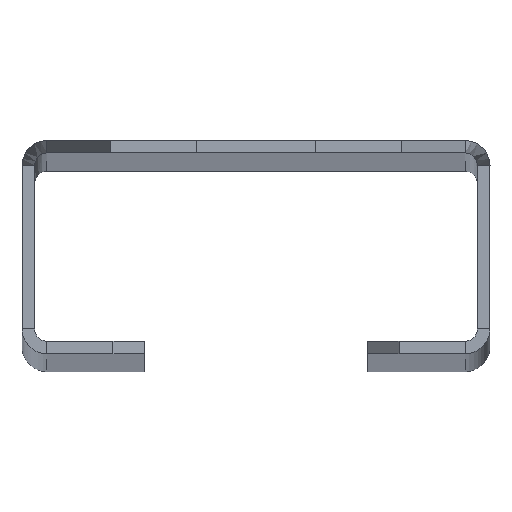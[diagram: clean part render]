
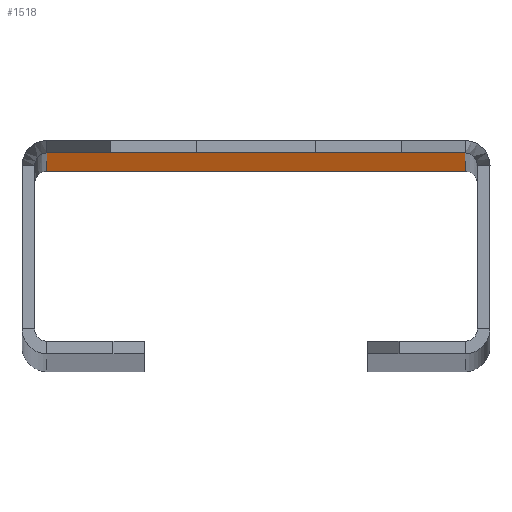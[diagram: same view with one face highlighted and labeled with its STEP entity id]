
A CAD part, top view. The second image highlights one B-rep face of the part: STEP entity #1518.
In plain terms, the highlighted planar face has unit normal (0, -1, 0).
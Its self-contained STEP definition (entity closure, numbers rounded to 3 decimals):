
#5 = EDGE_LOOP ( 'NONE', ( #1352, #1631 ) ) ;
#20 = CARTESIAN_POINT ( 'NONE',  ( 17.95, -1.2, -501. ) ) ;
#22 = CARTESIAN_POINT ( 'NONE',  ( 12.2, -1.2, -483.5 ) ) ;
#24 = DIRECTION ( 'NONE',  ( 0., 1., 0. ) ) ;
#35 = EDGE_CURVE ( 'NONE', #931, #1647, #1621, .T. ) ;
#42 = CARTESIAN_POINT ( 'NONE',  ( 6.45, -1.2, 501. ) ) ;
#44 = VECTOR ( 'NONE', #730, 1000. ) ;
#45 = VERTEX_POINT ( 'NONE', #602 ) ;
#64 = DIRECTION ( 'NONE',  ( 0., 1., 0. ) ) ;
#73 = VECTOR ( 'NONE', #985, 1000. ) ;
#74 = LINE ( 'NONE', #744, #180 ) ;
#75 = CARTESIAN_POINT ( 'NONE',  ( 6.45, -1.2, 507.5 ) ) ;
#91 = EDGE_CURVE ( 'NONE', #769, #931, #1379, .T. ) ;
#110 = PLANE ( 'NONE',  #499 ) ;
#125 = ORIENTED_EDGE ( 'NONE', *, *, #1415, .T. ) ;
#128 = CARTESIAN_POINT ( 'NONE',  ( 32.3, -1.2, 499.781 ) ) ;
#139 = ORIENTED_EDGE ( 'NONE', *, *, #1483, .T. ) ;
#149 = CARTESIAN_POINT ( 'NONE',  ( 6.45, -1.2, 501. ) ) ;
#176 = CARTESIAN_POINT ( 'NONE',  ( 6.45, -1.2, 507.5 ) ) ;
#180 = VECTOR ( 'NONE', #496, 1000. ) ;
#207 = CIRCLE ( 'NONE', #1063, 3.25 ) ;
#212 = EDGE_CURVE ( 'NONE', #45, #769, #1179, .T. ) ;
#234 = CARTESIAN_POINT ( 'NONE',  ( 12.2, -1.2, -480.25 ) ) ;
#237 = ORIENTED_EDGE ( 'NONE', *, *, #910, .T. ) ;
#240 = VECTOR ( 'NONE', #675, 1000. ) ;
#277 = CIRCLE ( 'NONE', #1231, 3.25 ) ;
#285 = CARTESIAN_POINT ( 'NONE',  ( 26.145, -1.2, -510.25 ) ) ;
#293 = LINE ( 'NONE', #1693, #885 ) ;
#306 = VERTEX_POINT ( 'NONE', #285 ) ;
#312 = EDGE_LOOP ( 'NONE', ( #1371, #1258, #945, #237, #1019, #898, #1562, #1034 ) ) ;
#316 = DIRECTION ( 'NONE',  ( 1., 0., 0. ) ) ;
#319 = VECTOR ( 'NONE', #387, 1000. ) ;
#320 = LINE ( 'NONE', #879, #1598 ) ;
#321 = CARTESIAN_POINT ( 'NONE',  ( 17.95, -1.2, 507.5 ) ) ;
#324 = VERTEX_POINT ( 'NONE', #1597 ) ;
#335 = CARTESIAN_POINT ( 'NONE',  ( 32.3, -1.2, -499.781 ) ) ;
#367 = CARTESIAN_POINT ( 'NONE',  ( 0., -1.2, 0. ) ) ;
#373 = VERTEX_POINT ( 'NONE', #1068 ) ;
#378 = CARTESIAN_POINT ( 'NONE',  ( -7.9, -1.2, -499.781 ) ) ;
#386 = DIRECTION ( 'NONE',  ( 0., -1., 0. ) ) ;
#387 = DIRECTION ( 'NONE',  ( -0.507, 0., -0.862 ) ) ;
#388 = VERTEX_POINT ( 'NONE', #22 ) ;
#397 = EDGE_CURVE ( 'NONE', #974, #373, #293, .T. ) ;
#415 = DIRECTION ( 'NONE',  ( 0., -1., 0. ) ) ;
#451 = LINE ( 'NONE', #1222, #464 ) ;
#464 = VECTOR ( 'NONE', #316, 1000. ) ;
#468 = CARTESIAN_POINT ( 'NONE',  ( -1.745, -1.2, 510.25 ) ) ;
#481 = DIRECTION ( 'NONE',  ( 0., 0., -1. ) ) ;
#496 = DIRECTION ( 'NONE',  ( 0., 0., -1. ) ) ;
#499 = AXIS2_PLACEMENT_3D ( 'NONE', #367, #386, #481 ) ;
#502 = CARTESIAN_POINT ( 'NONE',  ( 17.95, -1.2, -507.5 ) ) ;
#530 = CARTESIAN_POINT ( 'NONE',  ( 6.45, -1.2, -504.25 ) ) ;
#535 = CARTESIAN_POINT ( 'NONE',  ( -7.9, -1.2, 499.781 ) ) ;
#546 = CARTESIAN_POINT ( 'NONE',  ( 17.95, -1.2, -504.25 ) ) ;
#567 = CARTESIAN_POINT ( 'NONE',  ( 26.145, -1.2, 510.25 ) ) ;
#594 = CIRCLE ( 'NONE', #624, 3.25 ) ;
#602 = CARTESIAN_POINT ( 'NONE',  ( 6.45, -1.2, -507.5 ) ) ;
#605 = CARTESIAN_POINT ( 'NONE',  ( 6.45, -1.2, 504.25 ) ) ;
#615 = EDGE_CURVE ( 'NONE', #720, #324, #74, .T. ) ;
#617 = EDGE_CURVE ( 'NONE', #1398, #1447, #594, .T. ) ;
#624 = AXIS2_PLACEMENT_3D ( 'NONE', #605, #64, #1660 ) ;
#664 = ORIENTED_EDGE ( 'NONE', *, *, #91, .T. ) ;
#675 = DIRECTION ( 'NONE',  ( 0.507, 0., -0.862 ) ) ;
#687 = DIRECTION ( 'NONE',  ( -1., 0., 0. ) ) ;
#692 = EDGE_CURVE ( 'NONE', #388, #1469, #207, .T. ) ;
#696 = EDGE_LOOP ( 'NONE', ( #1376, #664, #886, #125 ) ) ;
#720 = VERTEX_POINT ( 'NONE', #1025 ) ;
#730 = DIRECTION ( 'NONE',  ( 1., 0., 0. ) ) ;
#739 = ORIENTED_EDGE ( 'NONE', *, *, #617, .T. ) ;
#744 = CARTESIAN_POINT ( 'NONE',  ( 32.3, -1.2, 499.781 ) ) ;
#769 = VERTEX_POINT ( 'NONE', #1256 ) ;
#771 = ORIENTED_EDGE ( 'NONE', *, *, #1380, .T. ) ;
#777 = FACE_BOUND ( 'NONE', #696, .T. ) ;
#778 = LINE ( 'NONE', #535, #319 ) ;
#796 = AXIS2_PLACEMENT_3D ( 'NONE', #546, #24, #823 ) ;
#801 = CARTESIAN_POINT ( 'NONE',  ( 17.95, -1.2, 501. ) ) ;
#823 = DIRECTION ( 'NONE',  ( 0., 0., 1. ) ) ;
#879 = CARTESIAN_POINT ( 'NONE',  ( 6.45, -1.2, -507.5 ) ) ;
#882 = DIRECTION ( 'NONE',  ( -0.507, 0., 0.862 ) ) ;
#885 = VECTOR ( 'NONE', #1254, 1000. ) ;
#886 = ORIENTED_EDGE ( 'NONE', *, *, #35, .T. ) ;
#888 = EDGE_LOOP ( 'NONE', ( #739, #1322, #139, #771 ) ) ;
#891 = EDGE_CURVE ( 'NONE', #1435, #373, #778, .T. ) ;
#898 = ORIENTED_EDGE ( 'NONE', *, *, #1186, .T. ) ;
#906 = DIRECTION ( 'NONE',  ( 0., 1., 0. ) ) ;
#910 = EDGE_CURVE ( 'NONE', #974, #1112, #1558, .T. ) ;
#912 = DIRECTION ( 'NONE',  ( -1., 0., 0. ) ) ;
#926 = CARTESIAN_POINT ( 'NONE',  ( 12.2, -1.2, -480.25 ) ) ;
#931 = VERTEX_POINT ( 'NONE', #20 ) ;
#934 = VERTEX_POINT ( 'NONE', #321 ) ;
#945 = ORIENTED_EDGE ( 'NONE', *, *, #397, .F. ) ;
#954 = DIRECTION ( 'NONE',  ( 0., 0., -1. ) ) ;
#956 = EDGE_CURVE ( 'NONE', #1447, #934, #958, .T. ) ;
#958 = LINE ( 'NONE', #176, #1197 ) ;
#968 = DIRECTION ( 'NONE',  ( 1., 0., 0. ) ) ;
#974 = VERTEX_POINT ( 'NONE', #1359 ) ;
#981 = VERTEX_POINT ( 'NONE', #567 ) ;
#985 = DIRECTION ( 'NONE',  ( 0.507, 0., 0.862 ) ) ;
#987 = DIRECTION ( 'NONE',  ( 0., 0., -1. ) ) ;
#991 = DIRECTION ( 'NONE',  ( 0., 1., 0. ) ) ;
#1019 = ORIENTED_EDGE ( 'NONE', *, *, #1573, .F. ) ;
#1025 = CARTESIAN_POINT ( 'NONE',  ( 32.3, -1.2, 499.781 ) ) ;
#1034 = ORIENTED_EDGE ( 'NONE', *, *, #1624, .T. ) ;
#1049 = EDGE_CURVE ( 'NONE', #1435, #981, #451, .T. ) ;
#1063 = AXIS2_PLACEMENT_3D ( 'NONE', #234, #1277, #987 ) ;
#1068 = CARTESIAN_POINT ( 'NONE',  ( -7.9, -1.2, 499.781 ) ) ;
#1107 = CARTESIAN_POINT ( 'NONE',  ( 6.45, -1.2, -501. ) ) ;
#1112 = VERTEX_POINT ( 'NONE', #1653 ) ;
#1120 = CIRCLE ( 'NONE', #1652, 3.25 ) ;
#1134 = CARTESIAN_POINT ( 'NONE',  ( 12.2, -1.2, -477. ) ) ;
#1150 = VECTOR ( 'NONE', #687, 1000. ) ;
#1151 = AXIS2_PLACEMENT_3D ( 'NONE', #530, #906, #1441 ) ;
#1158 = FACE_OUTER_BOUND ( 'NONE', #312, .T. ) ;
#1179 = CIRCLE ( 'NONE', #1151, 3.25 ) ;
#1186 = EDGE_CURVE ( 'NONE', #306, #324, #1681, .T. ) ;
#1197 = VECTOR ( 'NONE', #968, 1000. ) ;
#1222 = CARTESIAN_POINT ( 'NONE',  ( -7.9, -1.2, 510.25 ) ) ;
#1231 = AXIS2_PLACEMENT_3D ( 'NONE', #926, #415, #954 ) ;
#1238 = DIRECTION ( 'NONE',  ( 0., 0., 1. ) ) ;
#1241 = VERTEX_POINT ( 'NONE', #801 ) ;
#1254 = DIRECTION ( 'NONE',  ( 0., 0., 1. ) ) ;
#1256 = CARTESIAN_POINT ( 'NONE',  ( 6.45, -1.2, -501. ) ) ;
#1258 = ORIENTED_EDGE ( 'NONE', *, *, #891, .T. ) ;
#1271 = DIRECTION ( 'NONE',  ( -1., 0., 0. ) ) ;
#1277 = DIRECTION ( 'NONE',  ( 0., -1., 0. ) ) ;
#1285 = CARTESIAN_POINT ( 'NONE',  ( -7.9, -1.2, -510.25 ) ) ;
#1302 = LINE ( 'NONE', #128, #1317 ) ;
#1317 = VECTOR ( 'NONE', #882, 1000. ) ;
#1322 = ORIENTED_EDGE ( 'NONE', *, *, #956, .T. ) ;
#1352 = ORIENTED_EDGE ( 'NONE', *, *, #1716, .F. ) ;
#1359 = CARTESIAN_POINT ( 'NONE',  ( -7.9, -1.2, -499.781 ) ) ;
#1371 = ORIENTED_EDGE ( 'NONE', *, *, #1049, .F. ) ;
#1376 = ORIENTED_EDGE ( 'NONE', *, *, #212, .T. ) ;
#1379 = LINE ( 'NONE', #1107, #44 ) ;
#1380 = EDGE_CURVE ( 'NONE', #1241, #1398, #1609, .T. ) ;
#1398 = VERTEX_POINT ( 'NONE', #42 ) ;
#1415 = EDGE_CURVE ( 'NONE', #1647, #45, #320, .T. ) ;
#1435 = VERTEX_POINT ( 'NONE', #468 ) ;
#1441 = DIRECTION ( 'NONE',  ( 0., 0., 1. ) ) ;
#1447 = VERTEX_POINT ( 'NONE', #75 ) ;
#1469 = VERTEX_POINT ( 'NONE', #1134 ) ;
#1483 = EDGE_CURVE ( 'NONE', #934, #1241, #1120, .T. ) ;
#1495 = CARTESIAN_POINT ( 'NONE',  ( 17.95, -1.2, 504.25 ) ) ;
#1518 = ADVANCED_FACE ( 'NONE', ( #1545, #1680, #777, #1158 ), #110, .T. ) ;
#1527 = LINE ( 'NONE', #1285, #1686 ) ;
#1545 = FACE_BOUND ( 'NONE', #5, .T. ) ;
#1558 = LINE ( 'NONE', #378, #240 ) ;
#1562 = ORIENTED_EDGE ( 'NONE', *, *, #615, .F. ) ;
#1573 = EDGE_CURVE ( 'NONE', #306, #1112, #1527, .T. ) ;
#1597 = CARTESIAN_POINT ( 'NONE',  ( 32.3, -1.2, -499.781 ) ) ;
#1598 = VECTOR ( 'NONE', #1271, 1000. ) ;
#1609 = LINE ( 'NONE', #149, #1150 ) ;
#1621 = CIRCLE ( 'NONE', #796, 3.25 ) ;
#1624 = EDGE_CURVE ( 'NONE', #720, #981, #1302, .T. ) ;
#1631 = ORIENTED_EDGE ( 'NONE', *, *, #692, .F. ) ;
#1647 = VERTEX_POINT ( 'NONE', #502 ) ;
#1652 = AXIS2_PLACEMENT_3D ( 'NONE', #1495, #991, #1238 ) ;
#1653 = CARTESIAN_POINT ( 'NONE',  ( -1.745, -1.2, -510.25 ) ) ;
#1660 = DIRECTION ( 'NONE',  ( 0., 0., 1. ) ) ;
#1680 = FACE_BOUND ( 'NONE', #888, .T. ) ;
#1681 = LINE ( 'NONE', #335, #73 ) ;
#1686 = VECTOR ( 'NONE', #912, 1000. ) ;
#1693 = CARTESIAN_POINT ( 'NONE',  ( -7.9, -1.2, -499.781 ) ) ;
#1716 = EDGE_CURVE ( 'NONE', #1469, #388, #277, .T. ) ;
